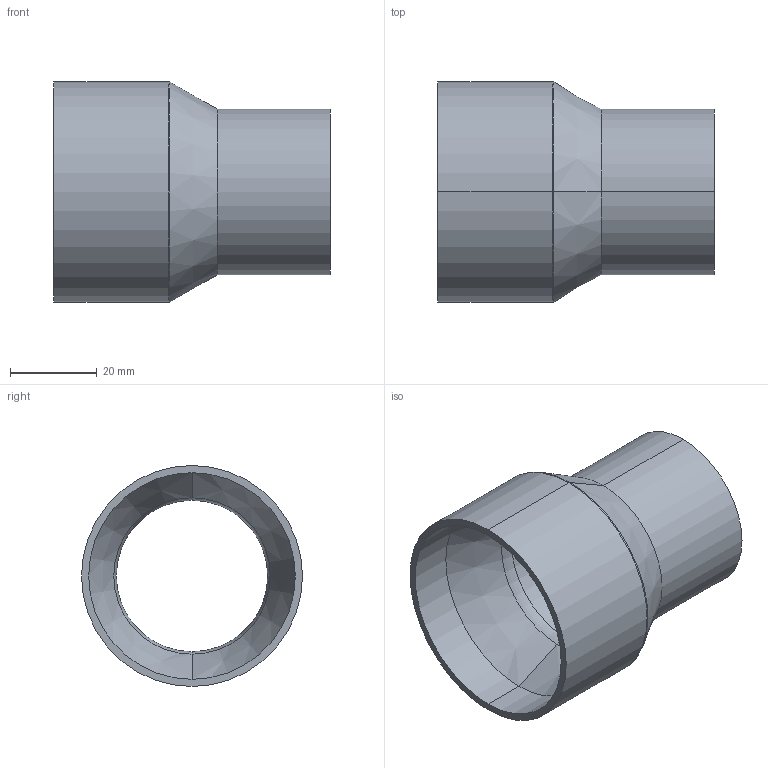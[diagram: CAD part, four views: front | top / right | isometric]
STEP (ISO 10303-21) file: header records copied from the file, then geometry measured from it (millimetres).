
FILE_DESCRIPTION (( 'STEP AP214' ), '1' );
FILE_NAME ('TE31SWW6L2.0x1.5-...STEP', '2016-05-29T09:42:25', ( 'eran' ), ( '' ), 'SwSTEP 2.0', 'SolidWorks 2016', '' );
FILE_SCHEMA (( 'AUTOMOTIVE_DESIGN' ));
Length unit declared in the file: millimetre
Products named in the file (1): TE31SWW6L2.0x1.5-..
Bounding box: 63.5 x 50.8 x 50.8 mm (x, y, z)
Volume: 26614.7 mm3; surface area: 17348 mm2
Topology: 1 solids, 1 shells, 18 faces, 36 edges, 20 vertices
Faces by surface type: cylinder 8, torus 4, cone 4, plane 2
Entity records: 506 total; most frequent: DIRECTION 98, CARTESIAN_POINT 75, ORIENTED_EDGE 72, AXIS2_PLACEMENT_3D 43, EDGE_CURVE 36, CIRCLE 24, EDGE_LOOP 20, VERTEX_POINT 20
